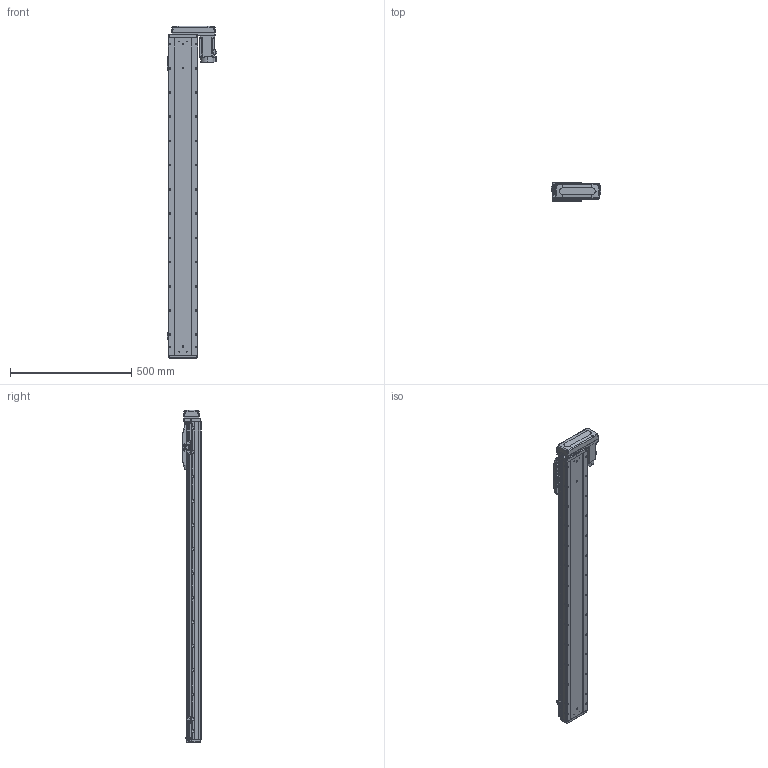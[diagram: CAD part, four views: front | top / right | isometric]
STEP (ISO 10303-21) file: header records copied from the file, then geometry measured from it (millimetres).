
FILE_DESCRIPTION (( 'STEP AP203' ), '1' );
FILE_NAME ('GTH12-1100-BL-M40-C4.step', '2025-07-16T03:40:12', ( '' ), ( '' ), 'SwSTEP 2.0', 'SolidWorks 2023', '' );
FILE_SCHEMA (( 'CONFIG_CONTROL_DESIGN' ));
Length unit declared in the file: millimetre
Products named in the file (17): GTH120-006; CTHA86-033_M40B; GTH120-001_1100; GTH80-022; GTH80-028; 感应器总成右; GBT 70.1-M5×16; hg-kn43j_-s100_; 感应器总成左; GTH120-013; GTH120-027-1_GTH120-027-2; GTH120-003; GTH120-004; GTH12-1100-BL-M40-C4; GBT 70.3-M3×8; GBT 70.1-M3×6; BTH-M3X5X6
Assembly tree (38 placements, depth 2):
  GTH12-1100-BL-M40-C4
    GTH120-001_1100
    GTH120-003
    GTH120-006
    GTH120-004
    GTH120-013
    GBT 70.1-M3×6  x2
    GBT 70.1-M5×16  x10
    GBT 70.3-M3×8  x4
    GTH80-022
    GTH80-028  x2
    BTH-M3X5X6  x8
    hg-kn43j_-s100_
    CTHA86-033_M40B
    GTH120-027-1_GTH120-027-2
    感应器总成右  x2
    感应器总成左
Bounding box: 203.5 x 76 x 1370.5 mm (x, y, z)
Volume: 9785483.7 mm3; surface area: 827799.5 mm2
Topology: 55 solids, 55 shells, 2520 faces, 5955 edges, 3671 vertices
Faces by surface type: plane 1268, cylinder 752, cone 324, torus 162, sphere 8, bspline 6
Entity records: 56369 total; most frequent: CARTESIAN_POINT 9644, DIRECTION 9582, ORIENTED_EDGE 8902, EDGE_CURVE 4451, AXIS2_PLACEMENT_3D 3342, LINE 2898, VECTOR 2898, VERTEX_POINT 2804
